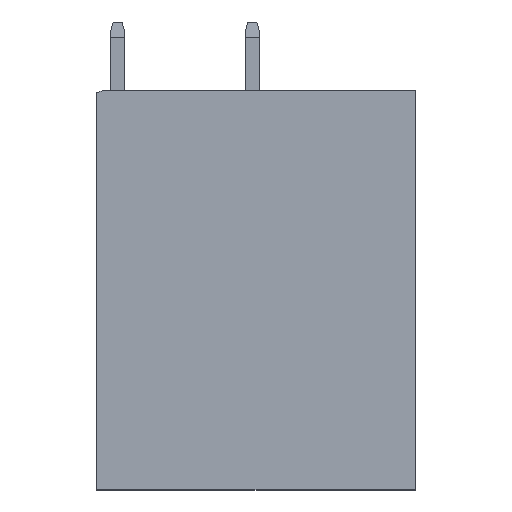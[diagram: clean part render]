
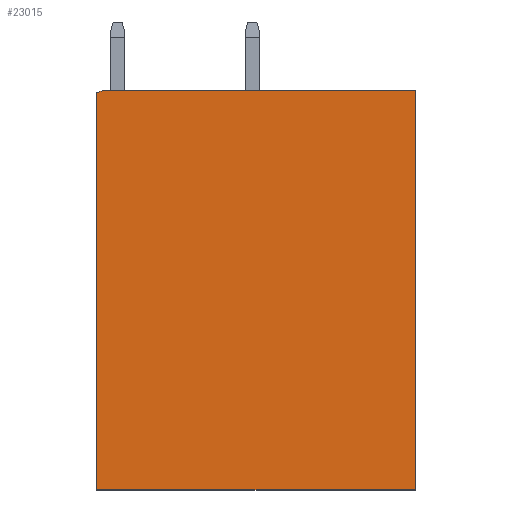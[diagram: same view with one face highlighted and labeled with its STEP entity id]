
A CAD part, top view. The second image highlights one B-rep face of the part: STEP entity #23015.
In plain terms, the highlighted planar face has unit normal (0, 0, 1).
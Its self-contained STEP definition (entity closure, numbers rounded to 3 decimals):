
#447=DIRECTION('',(-1.,0.,0.));
#448=VECTOR('',#447,17.5);
#449=CARTESIAN_POINT('',(8.45,-11.275,9.7));
#450=LINE('',#449,#448);
#455=DIRECTION('',(0.,1.,0.));
#456=VECTOR('',#455,21.8);
#457=CARTESIAN_POINT('',(-9.05,-11.275,9.7));
#458=LINE('',#457,#456);
#6517=DIRECTION('',(-1.,0.,0.));
#6518=VECTOR('',#6517,17.2);
#6519=CARTESIAN_POINT('',(8.45,10.625,9.7));
#6520=LINE('',#6519,#6518);
#6521=DIRECTION('',(0.,1.,0.));
#6522=VECTOR('',#6521,21.9);
#6523=CARTESIAN_POINT('',(8.45,-11.275,9.7));
#6524=LINE('',#6523,#6522);
#6525=DIRECTION('',(-0.949,-0.316,0.));
#6526=VECTOR('',#6525,0.316);
#6527=CARTESIAN_POINT('',(-8.75,10.625,9.7));
#6528=LINE('',#6527,#6526);
#11723=CARTESIAN_POINT('',(8.45,-11.275,9.7));
#11724=CARTESIAN_POINT('',(8.45,10.625,9.7));
#11725=VERTEX_POINT('',#11723);
#11726=VERTEX_POINT('',#11724);
#11831=CARTESIAN_POINT('',(-8.75,10.625,9.7));
#11832=VERTEX_POINT('',#11831);
#11841=CARTESIAN_POINT('',(-9.05,-11.275,9.7));
#11842=VERTEX_POINT('',#11841);
#11843=CARTESIAN_POINT('',(-9.05,10.525,9.7));
#11844=VERTEX_POINT('',#11843);
#23003=CARTESIAN_POINT('',(0.,0.,9.7));
#23004=DIRECTION('',(0.,0.,1.));
#23005=DIRECTION('',(1.,0.,0.));
#23006=AXIS2_PLACEMENT_3D('',#23003,#23004,#23005);
#23007=PLANE('',#23006);
#23008=ORIENTED_EDGE('',*,*,#21514,.F.);
#23009=ORIENTED_EDGE('',*,*,#14329,.F.);
#23010=ORIENTED_EDGE('',*,*,#14504,.T.);
#23011=ORIENTED_EDGE('',*,*,#14523,.T.);
#23012=ORIENTED_EDGE('',*,*,#22996,.F.);
#23013=EDGE_LOOP('',(#23008,#23009,#23010,#23011,#23012));
#23014=FACE_OUTER_BOUND('',#23013,.F.);
#23015=ADVANCED_FACE('',(#23014),#23007,.T.);
#14329=EDGE_CURVE('',#11725,#11726,#6524,.T.);
#14504=EDGE_CURVE('',#11725,#11842,#450,.T.);
#14523=EDGE_CURVE('',#11842,#11844,#458,.T.);
#21514=EDGE_CURVE('',#11726,#11832,#6520,.T.);
#22996=EDGE_CURVE('',#11832,#11844,#6528,.T.);
